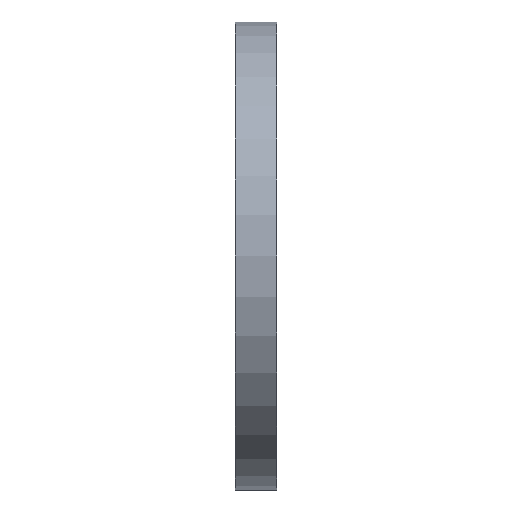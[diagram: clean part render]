
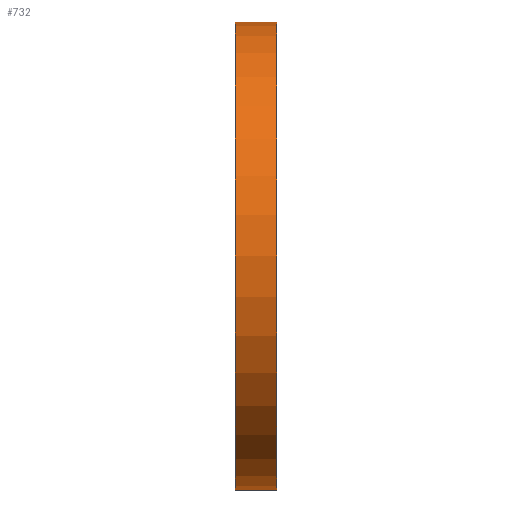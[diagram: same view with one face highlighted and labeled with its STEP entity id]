
A CAD part, left-side view. The second image highlights one B-rep face of the part: STEP entity #732.
In plain terms, the highlighted cylindrical face has radius 125 mm (diameter 250 mm), a partial arc.
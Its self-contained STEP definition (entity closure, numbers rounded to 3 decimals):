
#40 = FACE_OUTER_BOUND ( 'NONE', #414, .T. ) ;
#62 = AXIS2_PLACEMENT_3D ( 'NONE', #589, #864, #761 ) ;
#105 = DIRECTION ( 'NONE',  ( 0., 0., 1. ) ) ;
#123 = EDGE_CURVE ( 'NONE', #442, #571, #705, .T. ) ;
#131 = EDGE_CURVE ( 'NONE', #571, #644, #463, .T. ) ;
#155 = AXIS2_PLACEMENT_3D ( 'NONE', #218, #496, #639 ) ;
#164 = CARTESIAN_POINT ( 'NONE',  ( 0., 34.695, -125. ) ) ;
#181 = LINE ( 'NONE', #869, #523 ) ;
#218 = CARTESIAN_POINT ( 'NONE',  ( 0., 22., 0. ) ) ;
#257 = CIRCLE ( 'NONE', #303, 125. ) ;
#285 = DIRECTION ( 'NONE',  ( 0., 1., 0. ) ) ;
#295 = VECTOR ( 'NONE', #285, 1000. ) ;
#303 = AXIS2_PLACEMENT_3D ( 'NONE', #600, #746, #105 ) ;
#309 = CYLINDRICAL_SURFACE ( 'NONE', #62, 125. ) ;
#316 = ORIENTED_EDGE ( 'NONE', *, *, #131, .F. ) ;
#367 = VERTEX_POINT ( 'NONE', #480 ) ;
#414 = EDGE_LOOP ( 'NONE', ( #884, #816, #419, #316 ) ) ;
#419 = ORIENTED_EDGE ( 'NONE', *, *, #702, .T. ) ;
#442 = VERTEX_POINT ( 'NONE', #506 ) ;
#458 = DIRECTION ( 'NONE',  ( 0., 1., 0. ) ) ;
#463 = CIRCLE ( 'NONE', #155, 125. ) ;
#480 = CARTESIAN_POINT ( 'NONE',  ( 0., 0., 125. ) ) ;
#496 = DIRECTION ( 'NONE',  ( 0., 1., 0. ) ) ;
#506 = CARTESIAN_POINT ( 'NONE',  ( 0., 0., -125. ) ) ;
#523 = VECTOR ( 'NONE', #458, 1000. ) ;
#571 = VERTEX_POINT ( 'NONE', #796 ) ;
#583 = EDGE_CURVE ( 'NONE', #442, #367, #257, .T. ) ;
#589 = CARTESIAN_POINT ( 'NONE',  ( 0., 34.695, 0. ) ) ;
#600 = CARTESIAN_POINT ( 'NONE',  ( 0., 0., 0. ) ) ;
#639 = DIRECTION ( 'NONE',  ( 0., 0., 1. ) ) ;
#644 = VERTEX_POINT ( 'NONE', #859 ) ;
#702 = EDGE_CURVE ( 'NONE', #367, #644, #181, .T. ) ;
#705 = LINE ( 'NONE', #164, #295 ) ;
#732 = ADVANCED_FACE ( 'NONE', ( #40 ), #309, .T. ) ;
#746 = DIRECTION ( 'NONE',  ( 0., 1., 0. ) ) ;
#761 = DIRECTION ( 'NONE',  ( 0., 0., 1. ) ) ;
#796 = CARTESIAN_POINT ( 'NONE',  ( 0., 22., -125. ) ) ;
#816 = ORIENTED_EDGE ( 'NONE', *, *, #583, .T. ) ;
#859 = CARTESIAN_POINT ( 'NONE',  ( 0., 22., 125. ) ) ;
#864 = DIRECTION ( 'NONE',  ( 0., 1., 0. ) ) ;
#869 = CARTESIAN_POINT ( 'NONE',  ( 0., 34.695, 125. ) ) ;
#884 = ORIENTED_EDGE ( 'NONE', *, *, #123, .F. ) ;
